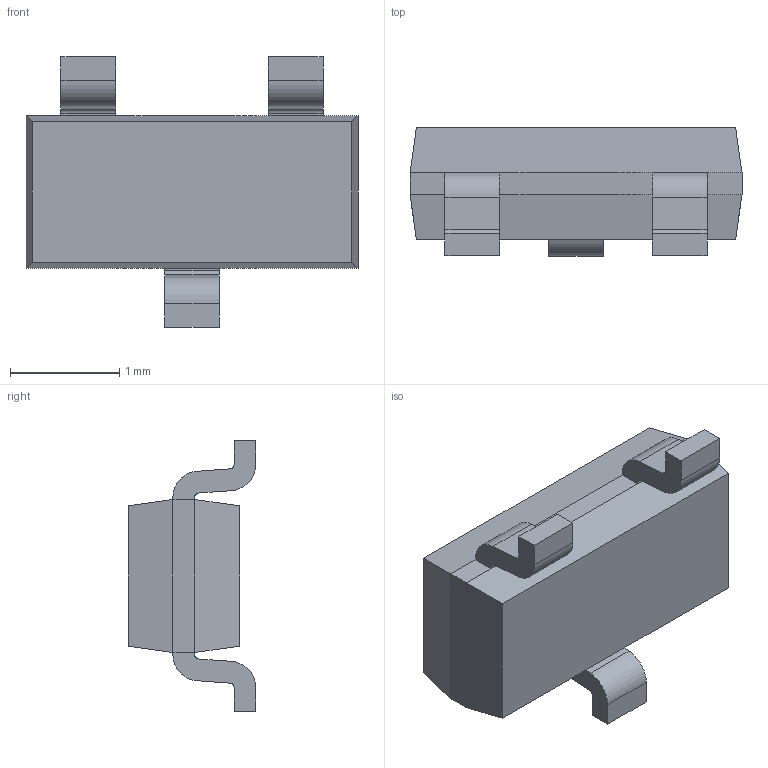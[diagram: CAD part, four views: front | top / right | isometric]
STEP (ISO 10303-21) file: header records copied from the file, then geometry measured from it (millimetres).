
FILE_DESCRIPTION (( 'STEP AP214' ), '1' );
FILE_NAME ('SOT23-3 JEDEC TO-236-AA.STEP', '2010-09-22T10:36:00', ( '' ), ( '' ), 'SwSTEP 2.0', 'SolidWorks 2010', '' );
FILE_SCHEMA (( 'AUTOMOTIVE_DESIGN' ));
Length unit declared in the file: millimetre
Products named in the file (4): Body x3-04 y1-4 z1-02; DR Logo y0-28 x0-28; Leg x0-5 y0-56 z0-54; SOT23-3 JEDEC TO-236-AA
Assembly tree (5 placements, depth 2):
  SOT23-3 JEDEC TO-236-AA
    DR Logo y0-28 x0-28
    Leg x0-5 y0-56 z0-54  x3
    Body x3-04 y1-4 z1-02
Bounding box: 3.04 x 1.17 x 2.48 mm (x, y, z)
Volume: 4.4 mm3; surface area: 21.4 mm2
Topology: 5 solids, 5 shells, 87 faces, 220 edges, 144 vertices
Faces by surface type: plane 60, cylinder 27
Entity records: 2158 total; most frequent: DIRECTION 321, CARTESIAN_POINT 311, ORIENTED_EDGE 296, EDGE_CURVE 148, VECTOR 109, LINE 109, AXIS2_PLACEMENT_3D 106, VERTEX_POINT 96
